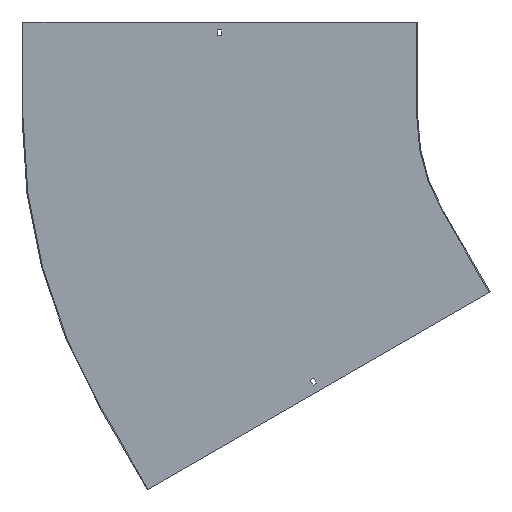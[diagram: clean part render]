
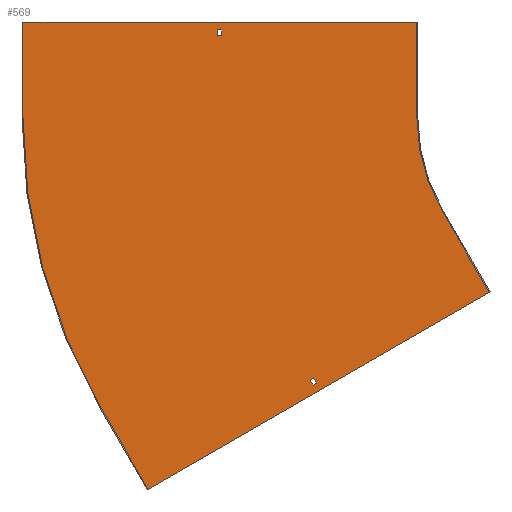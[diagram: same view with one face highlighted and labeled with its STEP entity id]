
A CAD part, front view. The second image highlights one B-rep face of the part: STEP entity #569.
In plain terms, the highlighted planar face has unit normal (0, -1, 0).
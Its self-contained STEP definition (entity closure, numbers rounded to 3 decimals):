
#13 = DIRECTION ( 'NONE',  ( 0., -1., 0. ) ) ;
#14 = LINE ( 'NONE', #410, #846 ) ;
#35 = CARTESIAN_POINT ( 'NONE',  ( -290., -1.5, 150. ) ) ;
#39 = CIRCLE ( 'NONE', #278, 290. ) ;
#44 = EDGE_CURVE ( 'NONE', #676, #807, #239, .T. ) ;
#46 = EDGE_LOOP ( 'NONE', ( #338, #71, #853, #459, #226, #440, #545, #356 ) ) ;
#58 = LINE ( 'NONE', #387, #290 ) ;
#60 = VERTEX_POINT ( 'NONE', #101 ) ;
#61 = EDGE_CURVE ( 'NONE', #376, #733, #171, .T. ) ;
#69 = VECTOR ( 'NONE', #313, 1000. ) ;
#71 = ORIENTED_EDGE ( 'NONE', *, *, #374, .F. ) ;
#73 = CARTESIAN_POINT ( 'NONE',  ( -522.43, -1.5, -301.625 ) ) ;
#81 = LINE ( 'NONE', #735, #725 ) ;
#85 = VECTOR ( 'NONE', #190, 1000. ) ;
#86 = EDGE_CURVE ( 'NONE', #490, #129, #762, .T. ) ;
#89 = VERTEX_POINT ( 'NONE', #497 ) ;
#97 = CIRCLE ( 'NONE', #834, 910. ) ;
#101 = CARTESIAN_POINT ( 'NONE',  ( -910., -1.5, 150. ) ) ;
#105 = CARTESIAN_POINT ( 'NONE',  ( -290., -1.5, 0. ) ) ;
#106 = CARTESIAN_POINT ( 'NONE',  ( 0., -1.5, 0. ) ) ;
#110 = DIRECTION ( 'NONE',  ( 0.866, 0., 0.5 ) ) ;
#129 = VERTEX_POINT ( 'NONE', #105 ) ;
#136 = VERTEX_POINT ( 'NONE', #565 ) ;
#137 = VECTOR ( 'NONE', #274, 1000. ) ;
#167 = CARTESIAN_POINT ( 'NONE',  ( -251.147, -1.5, -145. ) ) ;
#171 = LINE ( 'NONE', #289, #210 ) ;
#179 = CARTESIAN_POINT ( 'NONE',  ( -174.848, -1.5, -274.154 ) ) ;
#180 = VERTEX_POINT ( 'NONE', #717 ) ;
#181 = EDGE_CURVE ( 'NONE', #807, #641, #97, .T. ) ;
#186 = CARTESIAN_POINT ( 'NONE',  ( -713.083, -1.5, -584.904 ) ) ;
#188 = VERTEX_POINT ( 'NONE', #654 ) ;
#190 = DIRECTION ( 'NONE',  ( -0.866, 0., -0.5 ) ) ;
#203 = EDGE_CURVE ( 'NONE', #740, #376, #58, .T. ) ;
#205 = LINE ( 'NONE', #736, #137 ) ;
#210 = VECTOR ( 'NONE', #703, 1000. ) ;
#215 = LINE ( 'NONE', #73, #695 ) ;
#218 = EDGE_CURVE ( 'NONE', #136, #740, #527, .T. ) ;
#222 = ORIENTED_EDGE ( 'NONE', *, *, #357, .F. ) ;
#226 = ORIENTED_EDGE ( 'NONE', *, *, #306, .F. ) ;
#229 = CARTESIAN_POINT ( 'NONE',  ( -290., -1.5, 150. ) ) ;
#239 = LINE ( 'NONE', #693, #393 ) ;
#246 = ORIENTED_EDGE ( 'NONE', *, *, #386, .F. ) ;
#259 = VERTEX_POINT ( 'NONE', #852 ) ;
#267 = EDGE_CURVE ( 'NONE', #180, #388, #789, .T. ) ;
#269 = DIRECTION ( 'NONE',  ( 0.5, 0., -0.866 ) ) ;
#274 = DIRECTION ( 'NONE',  ( -0.5, 0., 0.866 ) ) ;
#278 = AXIS2_PLACEMENT_3D ( 'NONE', #727, #13, #859 ) ;
#289 = CARTESIAN_POINT ( 'NONE',  ( 0., -1.5, 129. ) ) ;
#290 = VECTOR ( 'NONE', #721, 1000. ) ;
#306 = EDGE_CURVE ( 'NONE', #188, #676, #778, .T. ) ;
#311 = ORIENTED_EDGE ( 'NONE', *, *, #203, .T. ) ;
#313 = DIRECTION ( 'NONE',  ( 1., 0., 0. ) ) ;
#322 = CARTESIAN_POINT ( 'NONE',  ( 69., -1.5, -119.512 ) ) ;
#338 = ORIENTED_EDGE ( 'NONE', *, *, #809, .F. ) ;
#345 = ORIENTED_EDGE ( 'NONE', *, *, #218, .T. ) ;
#356 = ORIENTED_EDGE ( 'NONE', *, *, #86, .F. ) ;
#357 = EDGE_CURVE ( 'NONE', #259, #180, #205, .T. ) ;
#374 = EDGE_CURVE ( 'NONE', #641, #60, #14, .T. ) ;
#376 = VERTEX_POINT ( 'NONE', #484 ) ;
#383 = CARTESIAN_POINT ( 'NONE',  ( 64.5, -1.5, -111.717 ) ) ;
#386 = EDGE_CURVE ( 'NONE', #388, #89, #215, .T. ) ;
#387 = CARTESIAN_POINT ( 'NONE',  ( -596.75, -1.5, 0. ) ) ;
#388 = VERTEX_POINT ( 'NONE', #550 ) ;
#393 = VECTOR ( 'NONE', #576, 1000. ) ;
#395 = FACE_OUTER_BOUND ( 'NONE', #46, .T. ) ;
#410 = CARTESIAN_POINT ( 'NONE',  ( -910., -1.5, 0. ) ) ;
#434 = VERTEX_POINT ( 'NONE', #167 ) ;
#437 = VECTOR ( 'NONE', #643, 1000. ) ;
#440 = ORIENTED_EDGE ( 'NONE', *, *, #443, .F. ) ;
#443 = EDGE_CURVE ( 'NONE', #434, #188, #570, .T. ) ;
#447 = PLANE ( 'NONE',  #823 ) ;
#449 = DIRECTION ( 'NONE',  ( -0.866, 0., -0.5 ) ) ;
#453 = FACE_BOUND ( 'NONE', #649, .T. ) ;
#455 = EDGE_LOOP ( 'NONE', ( #222, #766, #246, #761 ) ) ;
#459 = ORIENTED_EDGE ( 'NONE', *, *, #44, .F. ) ;
#470 = DIRECTION ( 'NONE',  ( 1., 0., 0. ) ) ;
#476 = ORIENTED_EDGE ( 'NONE', *, *, #61, .T. ) ;
#479 = VECTOR ( 'NONE', #110, 1000. ) ;
#484 = CARTESIAN_POINT ( 'NONE',  ( -596.75, -1.5, 129. ) ) ;
#490 = VERTEX_POINT ( 'NONE', #35 ) ;
#497 = CARTESIAN_POINT ( 'NONE',  ( -453.43, -1.5, -421.137 ) ) ;
#527 = LINE ( 'NONE', #841, #69 ) ;
#543 = CARTESIAN_POINT ( 'NONE',  ( -596.75, -1.5, 138. ) ) ;
#545 = ORIENTED_EDGE ( 'NONE', *, *, #734, .F. ) ;
#550 = CARTESIAN_POINT ( 'NONE',  ( -457.93, -1.5, -413.342 ) ) ;
#562 = CARTESIAN_POINT ( 'NONE',  ( -251.147, -1.5, -145. ) ) ;
#565 = CARTESIAN_POINT ( 'NONE',  ( -603.25, -1.5, 138. ) ) ;
#568 = DIRECTION ( 'NONE',  ( 0., 0., -1. ) ) ;
#569 = ADVANCED_FACE ( 'NONE', ( #831, #395, #453 ), #447, .T. ) ;
#570 = LINE ( 'NONE', #562, #808 ) ;
#576 = DIRECTION ( 'NONE',  ( -0.5, 0., 0.866 ) ) ;
#583 = DIRECTION ( 'NONE',  ( 0., 0., -1. ) ) ;
#584 = DIRECTION ( 'NONE',  ( 0., 0., -1. ) ) ;
#591 = DIRECTION ( 'NONE',  ( 0., -1., 0. ) ) ;
#593 = EDGE_CURVE ( 'NONE', #89, #259, #792, .T. ) ;
#595 = EDGE_CURVE ( 'NONE', #733, #136, #716, .T. ) ;
#597 = DIRECTION ( 'NONE',  ( 0., 1., 0. ) ) ;
#641 = VERTEX_POINT ( 'NONE', #653 ) ;
#643 = DIRECTION ( 'NONE',  ( 0., 0., 1. ) ) ;
#649 = EDGE_LOOP ( 'NONE', ( #345, #311, #476, #744 ) ) ;
#651 = CARTESIAN_POINT ( 'NONE',  ( 0., -1.5, 0. ) ) ;
#653 = CARTESIAN_POINT ( 'NONE',  ( -910., -1.5, 0. ) ) ;
#654 = CARTESIAN_POINT ( 'NONE',  ( -176.147, -1.5, -274.904 ) ) ;
#660 = CARTESIAN_POINT ( 'NONE',  ( -603.25, -1.5, 0. ) ) ;
#676 = VERTEX_POINT ( 'NONE', #186 ) ;
#680 = CARTESIAN_POINT ( 'NONE',  ( -788.083, -1.5, -455. ) ) ;
#693 = CARTESIAN_POINT ( 'NONE',  ( -713.083, -1.5, -584.904 ) ) ;
#695 = VECTOR ( 'NONE', #269, 1000. ) ;
#703 = DIRECTION ( 'NONE',  ( -1., 0., 0. ) ) ;
#716 = LINE ( 'NONE', #660, #437 ) ;
#717 = CARTESIAN_POINT ( 'NONE',  ( -452.301, -1.5, -410.092 ) ) ;
#721 = DIRECTION ( 'NONE',  ( 0., 0., -1. ) ) ;
#725 = VECTOR ( 'NONE', #470, 1000. ) ;
#727 = CARTESIAN_POINT ( 'NONE',  ( 0., -1.5, 0. ) ) ;
#733 = VERTEX_POINT ( 'NONE', #745 ) ;
#734 = EDGE_CURVE ( 'NONE', #129, #434, #39, .T. ) ;
#735 = CARTESIAN_POINT ( 'NONE',  ( -911.5, -1.5, 150. ) ) ;
#736 = CARTESIAN_POINT ( 'NONE',  ( -516.801, -1.5, -298.375 ) ) ;
#740 = VERTEX_POINT ( 'NONE', #543 ) ;
#744 = ORIENTED_EDGE ( 'NONE', *, *, #595, .T. ) ;
#745 = CARTESIAN_POINT ( 'NONE',  ( -603.25, -1.5, 129. ) ) ;
#761 = ORIENTED_EDGE ( 'NONE', *, *, #267, .F. ) ;
#762 = LINE ( 'NONE', #229, #768 ) ;
#766 = ORIENTED_EDGE ( 'NONE', *, *, #593, .F. ) ;
#768 = VECTOR ( 'NONE', #568, 1000. ) ;
#778 = LINE ( 'NONE', #179, #780 ) ;
#780 = VECTOR ( 'NONE', #449, 1000. ) ;
#789 = LINE ( 'NONE', #383, #85 ) ;
#792 = LINE ( 'NONE', #322, #479 ) ;
#807 = VERTEX_POINT ( 'NONE', #680 ) ;
#808 = VECTOR ( 'NONE', #835, 1000. ) ;
#809 = EDGE_CURVE ( 'NONE', #60, #490, #81, .T. ) ;
#823 = AXIS2_PLACEMENT_3D ( 'NONE', #106, #591, #583 ) ;
#831 = FACE_BOUND ( 'NONE', #455, .T. ) ;
#834 = AXIS2_PLACEMENT_3D ( 'NONE', #651, #597, #584 ) ;
#835 = DIRECTION ( 'NONE',  ( 0.5, 0., -0.866 ) ) ;
#841 = CARTESIAN_POINT ( 'NONE',  ( 0., -1.5, 138. ) ) ;
#846 = VECTOR ( 'NONE', #863, 1000. ) ;
#852 = CARTESIAN_POINT ( 'NONE',  ( -447.801, -1.5, -417.887 ) ) ;
#853 = ORIENTED_EDGE ( 'NONE', *, *, #181, .F. ) ;
#859 = DIRECTION ( 'NONE',  ( 0., 0., -1. ) ) ;
#863 = DIRECTION ( 'NONE',  ( 0., 0., 1. ) ) ;
